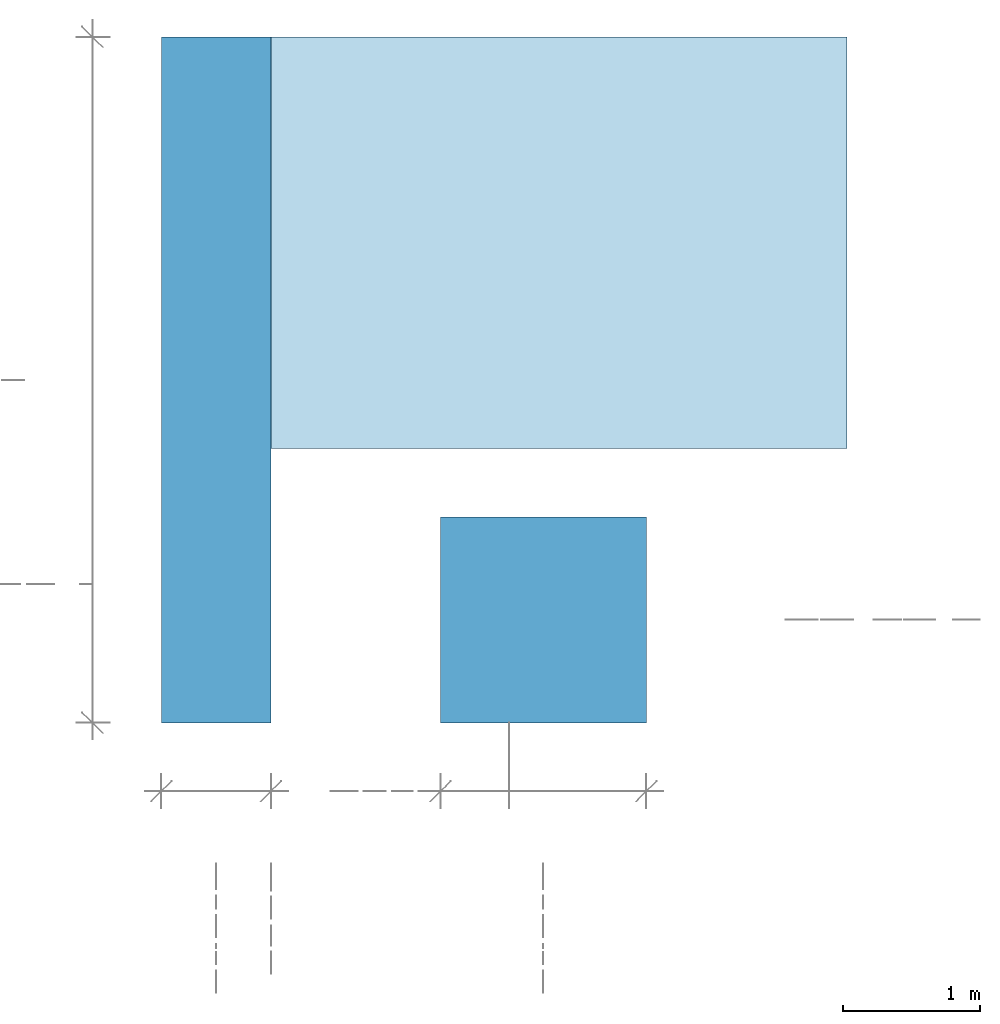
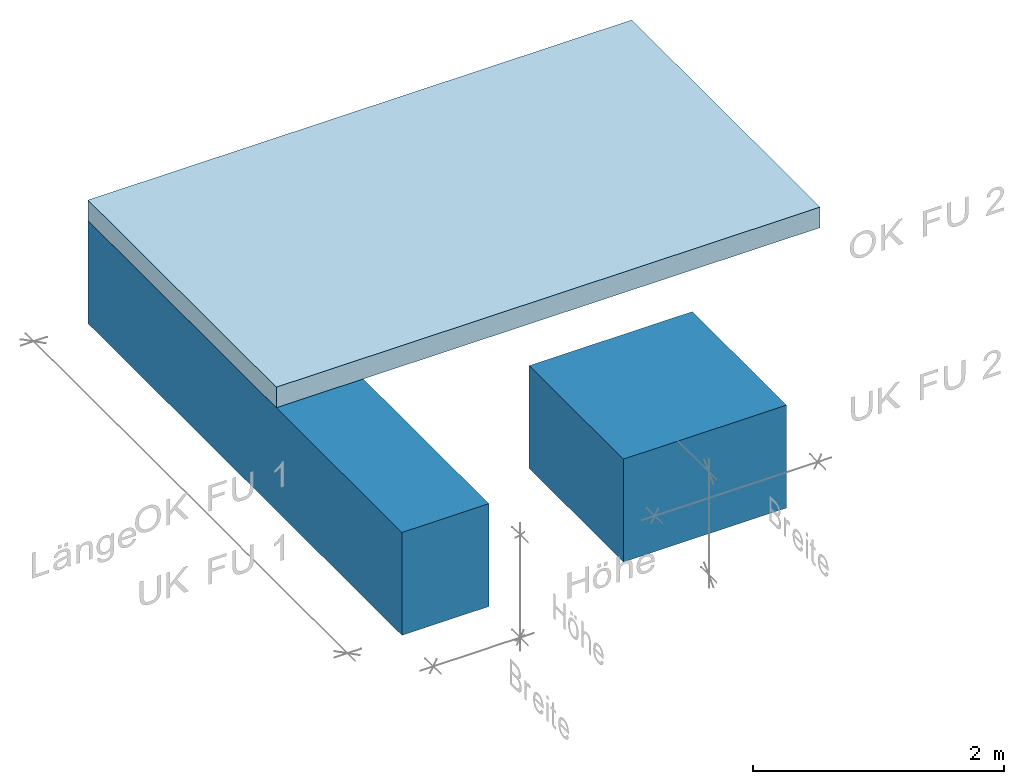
# One storey, part 1 of 3: 2 footings, 1 slab.
"""IFC4 building model written with IfcOpenShell, lengths in metres."""

from ifc_helpers import new_model, entity, si_unit, converted_unit, derived_unit, frame, frame_2d, origin, origin_with_axes, place, context, subcontext, project, spatial, rectangle, extrude, faceted_brep, material, element, save


model = new_model("IFC4")

# Units and contexts
model_context = context("Model", 3, precision=1e-05, world=origin())
body_context = subcontext(model_context, "Body", "Model", "MODEL_VIEW")
ifc_project = project(units=[si_unit("LENGTHUNIT", "METRE"), si_unit("AREAUNIT", "SQUARE_METRE"), si_unit("VOLUMEUNIT", "CUBIC_METRE"), si_unit("MASSUNIT", "GRAM", prefix="KILO"), converted_unit("PLANEANGLEUNIT", "DEGREE", entity("IfcPlaneAngleMeasure", 0.0174532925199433), si_unit("PLANEANGLEUNIT", "RADIAN"), dimensions=[0, 0, 0, 0, 0, 0, 0]), derived_unit("THERMALTRANSMITTANCEUNIT", [(si_unit("POWERUNIT", "WATT"), 1), (si_unit("THERMODYNAMICTEMPERATUREUNIT", "KELVIN"), -1), (si_unit("LENGTHUNIT", "METRE"), -2)]), derived_unit("VOLUMETRICFLOWRATEUNIT", [(si_unit("LENGTHUNIT", "METRE"), 3), (converted_unit("TIMEUNIT", "hour", entity("IfcTimeMeasure", 3600.0), si_unit("TIMEUNIT", "SECOND"), dimensions=[0, 0, 1, 0, 0, 0, 0]), -1), (si_unit("LENGTHUNIT", "METRE"), -1)])], contexts=[model_context])

# Site, building, storey
site_placement = place(None, origin())
site = spatial("IfcSite", under=ifc_project, at=site_placement, Name="Liegenschaft", CompositionType="ELEMENT")
building_placement = place(site_placement, origin())
building = spatial("IfcBuilding", under=site, at=building_placement, Name="Gebäude", CompositionType="ELEMENT")
storey_placement = place(building_placement, origin())
storey = spatial("IfcBuildingStorey", under=building, at=storey_placement, Name="Geschoss 01", CompositionType="ELEMENT", Elevation=0.0)

# Footings
footing_1_placement = place(storey_placement, frame((20.820715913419, -2.78326913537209, 0.0)))
element("IfcFooting", 1, at=footing_1_placement, inside=storey, PredefinedType="PAD_FOOTING", context=body_context, shape_type="SweptSolid", body=[
    extrude(rectangle(XDim=1.5, YDim=1.5, at=frame_2d((0.75, 0.75), x_axis=(1.0, 0.0))), origin_with_axes(), (0.0, 0.0, 1.0), 1.0),
])
footing_2_placement = place(storey_placement, frame((19.5840061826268, -2.78326913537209, 0.0), z_axis=(0.0, 0.0, 1.0), x_axis=(0.0, 1.0, 0.0)))
element("IfcFooting", 2, at=footing_2_placement, inside=storey, PredefinedType="STRIP_FOOTING", context=body_context, shape_type="SweptSolid", body=[
    extrude(rectangle(XDim=0.8, YDim=1.0, at=frame_2d((0.4, 0.5), x_axis=(1.0, 0.0))), frame((0.0, 0.0, 0.0), z_axis=(1.0, 0.0, 0.0), x_axis=(0.0, 1.0, 0.0)), (0.0, 0.0, 1.0), 5.0),
])

# Slab
ifc_material = material(Name="C20/25")
slab_placement = place(storey_placement, frame((18.7840061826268, -0.783269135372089, 1.0)))
element("IfcSlab", 3, at=slab_placement, inside=storey, material=ifc_material, Name="PFU_02", PredefinedType="BASESLAB", context=body_context, shape_type="Brep", body=[
    faceted_brep([(0.0, 3.0, 0.0), (0.0, 0.0, 0.0), (5.0, 0.0, 0.0), (5.0, 3.0, 0.0), (0.0, 0.0, 0.2), (0.0, 3.0, 0.2), (5.0, 3.0, 0.2), (5.0, 0.0, 0.2)], [[[0, 1, 2, 3]], [[4, 5, 6, 7]], [[1, 0, 5, 4]], [[2, 1, 4, 7]], [[3, 2, 7, 6]], [[0, 3, 6, 5]]], orient=[[False], [False], [False], [False], [False], [False]]),
])

save(model, "model.ifc")
